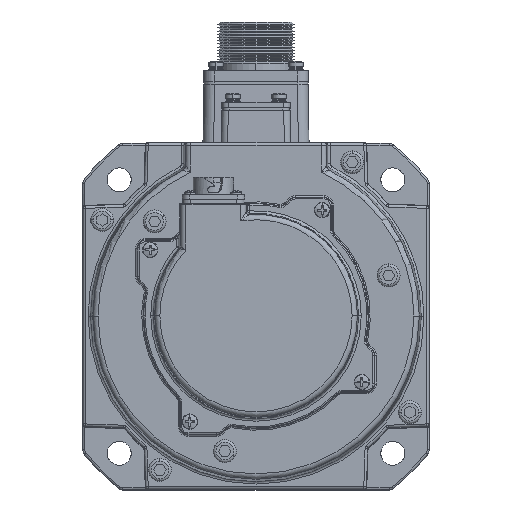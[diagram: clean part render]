
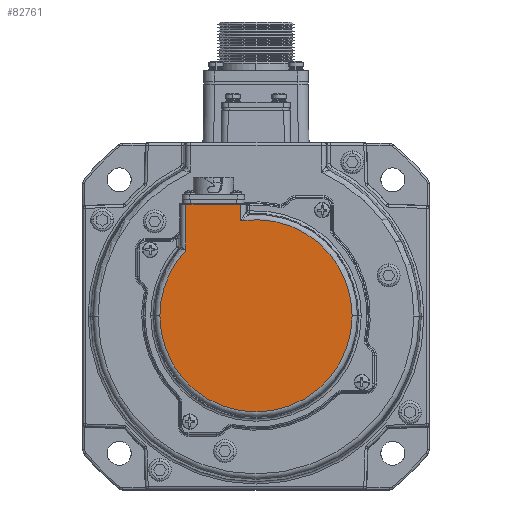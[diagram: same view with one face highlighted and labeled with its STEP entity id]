
A CAD part, top view. The second image highlights one B-rep face of the part: STEP entity #82761.
In plain terms, the highlighted planar face has unit normal (0, 0, 1).
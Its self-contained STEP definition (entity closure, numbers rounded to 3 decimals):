
#632 = EDGE_CURVE ( 'NONE', #19950, #58739, #13615, .T. ) ;
#1062 = CIRCLE ( 'NONE', #105039, 36.035 ) ;
#6363 = VERTEX_POINT ( 'NONE', #6844 ) ;
#6844 = CARTESIAN_POINT ( 'NONE',  ( -44.907, -56.273, -4.537 ) ) ;
#6934 = ORIENTED_EDGE ( 'NONE', *, *, #57038, .T. ) ;
#8494 = CIRCLE ( 'NONE', #87198, 36.035 ) ;
#9638 = DIRECTION ( 'NONE',  ( 0., 0., 1. ) ) ;
#10390 = DIRECTION ( 'NONE',  ( 0., 0., 1. ) ) ;
#13615 = CIRCLE ( 'NONE', #96538, 36.035 ) ;
#14109 = DIRECTION ( 'NONE',  ( -1., 0., 0. ) ) ;
#14879 = DIRECTION ( 'NONE',  ( -1., 0., 0. ) ) ;
#19950 = VERTEX_POINT ( 'NONE', #84885 ) ;
#25976 = ORIENTED_EDGE ( 'NONE', *, *, #83511, .T. ) ;
#27199 = CARTESIAN_POINT ( 'NONE',  ( -8.872, -56.273, -4.537 ) ) ;
#30414 = CARTESIAN_POINT ( 'NONE',  ( -14.587, -56.273, -4.537 ) ) ;
#31207 = DIRECTION ( 'NONE',  ( 0., 0., 1. ) ) ;
#33613 = DIRECTION ( 'NONE',  ( 0., -1., 0. ) ) ;
#37832 = ORIENTED_EDGE ( 'NONE', *, *, #56722, .T. ) ;
#39280 = DIRECTION ( 'NONE',  ( 0., 1., 0. ) ) ;
#39345 = CARTESIAN_POINT ( 'NONE',  ( -8.872, -56.273, -4.537 ) ) ;
#41653 = EDGE_LOOP ( 'NONE', ( #55435, #25976, #37832, #6934, #83571, #69647 ) ) ;
#42909 = LINE ( 'NONE', #30414, #95727 ) ;
#50153 = CARTESIAN_POINT ( 'NONE',  ( -8.872, -14.523, -4.537 ) ) ;
#54393 = VECTOR ( 'NONE', #33613, 1000. ) ;
#55435 = ORIENTED_EDGE ( 'NONE', *, *, #68870, .T. ) ;
#56722 = EDGE_CURVE ( 'NONE', #109326, #87052, #83589, .T. ) ;
#57038 = EDGE_CURVE ( 'NONE', #87052, #6363, #8494, .T. ) ;
#57570 = FACE_OUTER_BOUND ( 'NONE', #41653, .T. ) ;
#58739 = VERTEX_POINT ( 'NONE', #100236 ) ;
#62820 = PLANE ( 'NONE',  #109700 ) ;
#63528 = CARTESIAN_POINT ( 'NONE',  ( -8.872, -56.273, -4.537 ) ) ;
#68870 = EDGE_CURVE ( 'NONE', #58739, #78675, #42909, .T. ) ;
#69647 = ORIENTED_EDGE ( 'NONE', *, *, #632, .T. ) ;
#71773 = DIRECTION ( 'NONE',  ( -1., 0., 0. ) ) ;
#72479 = DIRECTION ( 'NONE',  ( -1., 0., 0. ) ) ;
#74600 = EDGE_CURVE ( 'NONE', #6363, #19950, #1062, .T. ) ;
#75680 = DIRECTION ( 'NONE',  ( 0., 0., 1. ) ) ;
#78675 = VERTEX_POINT ( 'NONE', #106369 ) ;
#81250 = VECTOR ( 'NONE', #14879, 1000. ) ;
#82761 = ADVANCED_FACE ( 'NONE', ( #57570 ), #62820, .T. ) ;
#83511 = EDGE_CURVE ( 'NONE', #78675, #109326, #104791, .T. ) ;
#83571 = ORIENTED_EDGE ( 'NONE', *, *, #74600, .T. ) ;
#83589 = LINE ( 'NONE', #105295, #54393 ) ;
#83998 = CARTESIAN_POINT ( 'NONE',  ( -35.157, -14.523, -4.537 ) ) ;
#84322 = CARTESIAN_POINT ( 'NONE',  ( -8.872, -56.273, -4.537 ) ) ;
#84885 = CARTESIAN_POINT ( 'NONE',  ( 27.163, -56.273, -4.537 ) ) ;
#86783 = CARTESIAN_POINT ( 'NONE',  ( -35.157, -31.624, -4.537 ) ) ;
#87052 = VERTEX_POINT ( 'NONE', #86783 ) ;
#87198 = AXIS2_PLACEMENT_3D ( 'NONE', #84322, #31207, #93217 ) ;
#93217 = DIRECTION ( 'NONE',  ( -1., 0., 0. ) ) ;
#95727 = VECTOR ( 'NONE', #39280, 1000. ) ;
#96538 = AXIS2_PLACEMENT_3D ( 'NONE', #39345, #75680, #14109 ) ;
#100236 = CARTESIAN_POINT ( 'NONE',  ( -14.587, -20.695, -4.537 ) ) ;
#104791 = LINE ( 'NONE', #50153, #81250 ) ;
#105039 = AXIS2_PLACEMENT_3D ( 'NONE', #63528, #10390, #72479 ) ;
#105295 = CARTESIAN_POINT ( 'NONE',  ( -35.157, -56.273, -4.537 ) ) ;
#106369 = CARTESIAN_POINT ( 'NONE',  ( -14.587, -14.523, -4.537 ) ) ;
#109326 = VERTEX_POINT ( 'NONE', #83998 ) ;
#109700 = AXIS2_PLACEMENT_3D ( 'NONE', #27199, #9638, #71773 ) ;
